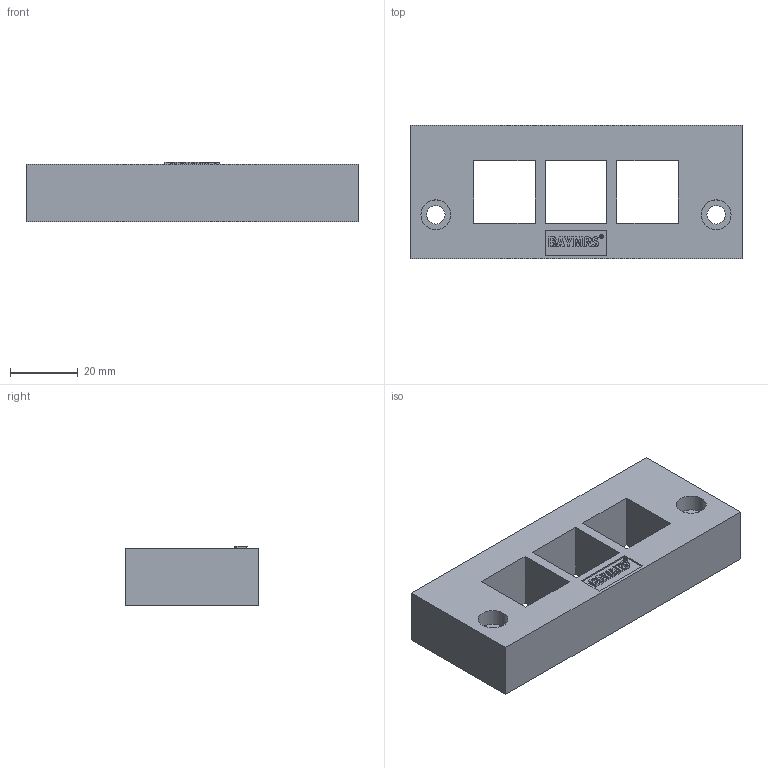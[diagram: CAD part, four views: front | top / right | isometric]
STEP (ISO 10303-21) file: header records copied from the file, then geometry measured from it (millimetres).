
FILE_DESCRIPTION(/* description */ (''),/* implementation_level */ '2;1');
FILE_NAME(/* name */ 'KEL-E3.stp',/* time_stamp */ '2020-03-11T09:29:16+08:00',/* author */ (''),/* organization */ (''),/* preprocessor_version */ 'ST-DEVELOPER v16.7',/* originating_system */ 'SIEMENS PLM Software NX 12.0',/* authorisation */ '');
FILE_SCHEMA (('AP203_CONFIGURATION_CONTROLLED_3D_DESIGN_OF_MECHANICAL_PARTS_AND_ASSEMBLIES_MIM_LF { 1 0 10303 403 2 1 2}'));
Length unit declared in the file: millimetre
Products named in the file (1): 914727605E84078e
Bounding box: 98.3 x 39.5 x 17.5 mm (x, y, z)
Volume: 47537 mm3; surface area: 14990.8 mm2
Topology: 1 solids, 1 shells, 190 faces, 474 edges, 307 vertices
Faces by surface type: plane 153, extrusion 23, cylinder 12, torus 2
Full cylindrical faces by diameter (mm): 5.5 x2, 6.5 x2, 8.8 x2
Entity records: 7179 total; most frequent: CARTESIAN_POINT 2300, ORIENTED_EDGE 920, DIRECTION 755, EDGE_CURVE 460, VECTOR 367, LINE 344, VERTEX_POINT 303, EDGE_LOOP 231
